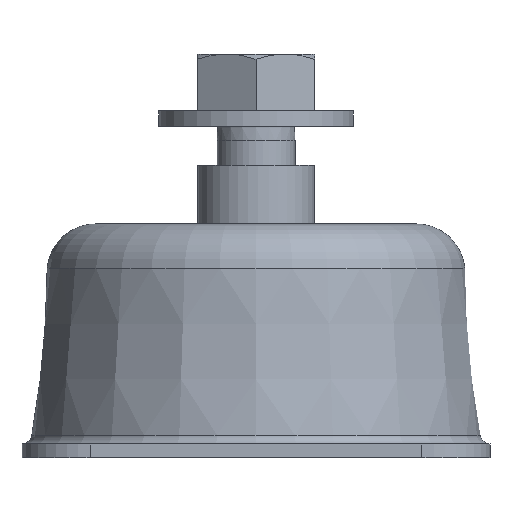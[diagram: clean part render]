
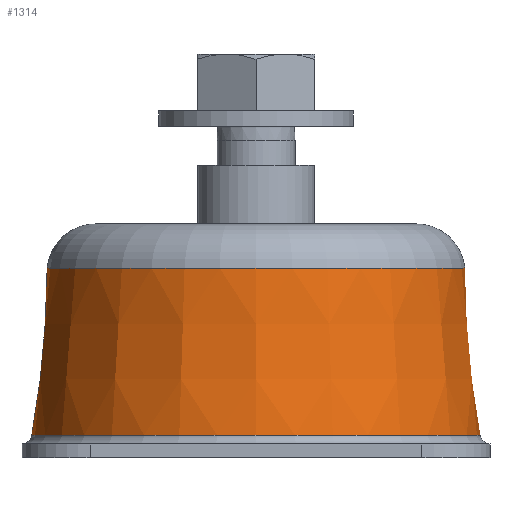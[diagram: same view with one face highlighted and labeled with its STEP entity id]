
A CAD part, left-side view. The second image highlights one B-rep face of the part: STEP entity #1314.
In plain terms, the highlighted conical face has half-angle 5.287 degrees and reference radius 35.262 mm.
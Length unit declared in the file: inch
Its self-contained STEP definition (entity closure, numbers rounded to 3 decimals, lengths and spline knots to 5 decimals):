
#31=CONICAL_SURFACE('',#1444,1.38826,5.287);
#197=FACE_BOUND('',#391,.T.);
#274=FACE_OUTER_BOUND('',#390,.T.);
#390=EDGE_LOOP('',(#964));
#391=EDGE_LOOP('',(#965));
#550=CIRCLE('',#1442,1.33876);
#552=CIRCLE('',#1445,1.43777);
#652=VERTEX_POINT('',#2108);
#654=VERTEX_POINT('',#2113);
#778=EDGE_CURVE('',#652,#652,#550,.T.);
#780=EDGE_CURVE('',#654,#654,#552,.T.);
#964=ORIENTED_EDGE('',*,*,#780,.F.);
#965=ORIENTED_EDGE('',*,*,#778,.T.);
#1314=ADVANCED_FACE('',(#274,#197),#31,.T.);
#1442=AXIS2_PLACEMENT_3D('',#2109,#1698,#1699);
#1444=AXIS2_PLACEMENT_3D('',#2112,#1702,#1703);
#1445=AXIS2_PLACEMENT_3D('',#2114,#1704,#1705);
#1698=DIRECTION('center_axis',(0.,0.,
-1.));
#1699=DIRECTION('ref_axis',(1.,0.,0.));
#1702=DIRECTION('center_axis',(0.,0.,
-1.));
#1703=DIRECTION('ref_axis',(1.,0.,0.));
#1704=DIRECTION('center_axis',(0.,0.,
-1.));
#1705=DIRECTION('ref_axis',(1.,0.,0.));
#2108=CARTESIAN_POINT('',(1.33876,0.,1.2163));
#2109=CARTESIAN_POINT('Origin',(0.,0.,
1.2163));
#2112=CARTESIAN_POINT('Origin',(0.,0.,
0.68137));
#2113=CARTESIAN_POINT('',(1.43777,0.,0.14644));
#2114=CARTESIAN_POINT('Origin',(0.,0.,
0.14644));
